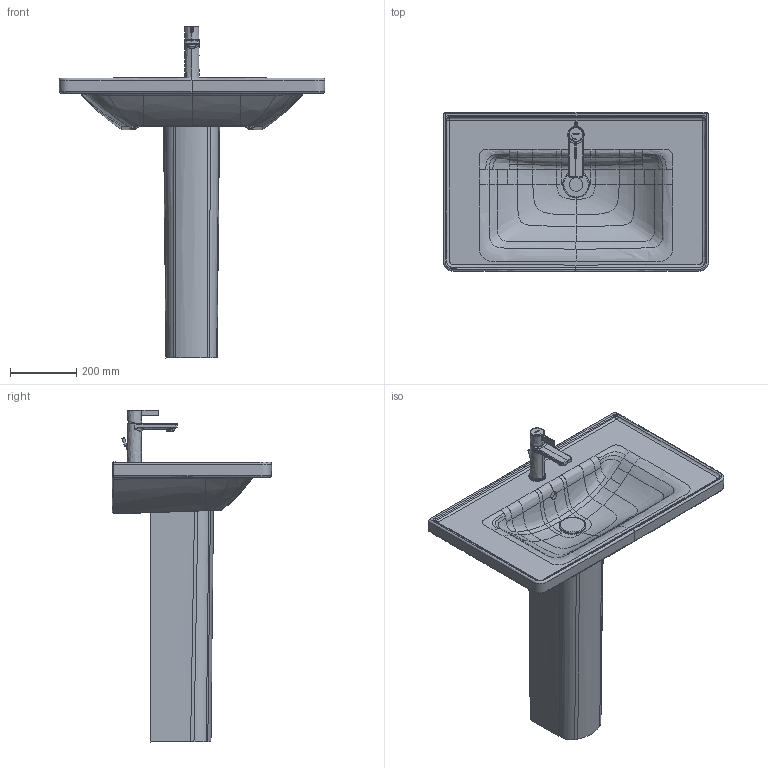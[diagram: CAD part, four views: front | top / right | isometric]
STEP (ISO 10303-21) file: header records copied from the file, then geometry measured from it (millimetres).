
FILE_DESCRIPTION(/* description */ (''),/* implementation_level */ '2;1');
FILE_NAME(/* name */ '236780_085842',/* time_stamp */ '2021-06-21T10:26:14+02:00',/* author */ (''),/* organization */ (''),/* preprocessor_version */ 'ST-DEVELOPER v15',/* originating_system */ '',/* authorisation */ '');
FILE_SCHEMA (('AUTOMOTIVE_DESIGN'));
Length unit declared in the file: millimetre
Products named in the file (1): Document
Bounding box: 800.17 x 480.08 x 999.28 mm (x, y, z)
Volume: 28574569.4 mm3; surface area: 1962715.3 mm2
Topology: 5 solids, 10 shells, 639 faces, 1547 edges, 941 vertices
Faces by surface type: bspline 495, plane 144
Entity records: 91276 total; most frequent: CARTESIAN_POINT 81655, ORIENTED_EDGE 3056, EDGE_CURVE 1535, B_SPLINE_CURVE_WITH_KNOTS 1274, VERTEX_POINT 938, EDGE_LOOP 671, ADVANCED_FACE 636, FACE_OUTER_BOUND 636
